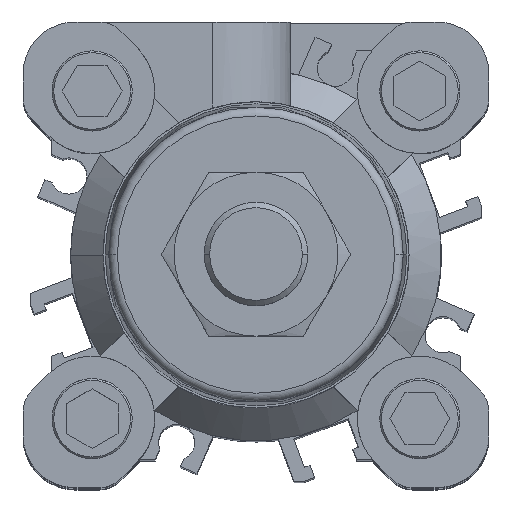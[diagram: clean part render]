
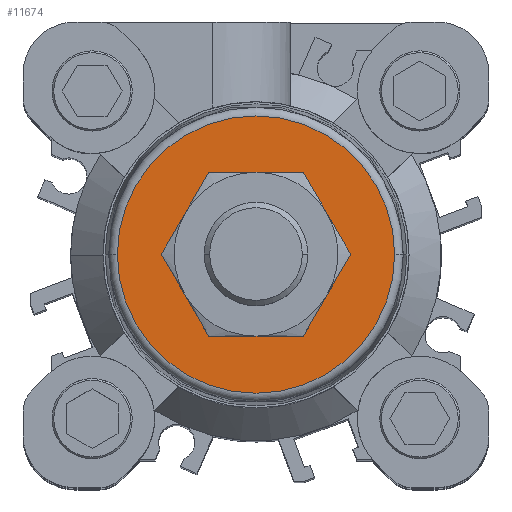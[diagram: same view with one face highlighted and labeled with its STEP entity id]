
A CAD part, top view. The second image highlights one B-rep face of the part: STEP entity #11674.
In plain terms, the highlighted planar face has unit normal (0, 0, 1).
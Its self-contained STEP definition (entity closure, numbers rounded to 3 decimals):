
#39 = CARTESIAN_POINT ( 'NONE',  ( 8., 0., 48.6 ) ) ;
#95 = CARTESIAN_POINT ( 'NONE',  ( 0., 0., 48.6 ) ) ;
#367 = CIRCLE ( 'NONE', #4279, 8. ) ;
#514 = CARTESIAN_POINT ( 'NONE',  ( -16.08, 0., 48.6 ) ) ;
#758 = DIRECTION ( 'NONE',  ( 1., 0., 0. ) ) ;
#994 = VERTEX_POINT ( 'NONE', #1175 ) ;
#1175 = CARTESIAN_POINT ( 'NONE',  ( 16.08, 0., 48.6 ) ) ;
#1439 = DIRECTION ( 'NONE',  ( 0., 0., 1. ) ) ;
#1444 = VERTEX_POINT ( 'NONE', #11749 ) ;
#2641 = DIRECTION ( 'NONE',  ( 0., 0., 1. ) ) ;
#2962 = EDGE_CURVE ( 'NONE', #994, #13232, #9599, .T. ) ;
#2969 = DIRECTION ( 'NONE',  ( 0., 0., 1. ) ) ;
#3604 = CARTESIAN_POINT ( 'NONE',  ( 0., 0., 48.6 ) ) ;
#3805 = EDGE_CURVE ( 'NONE', #13232, #994, #6535, .T. ) ;
#4279 = AXIS2_PLACEMENT_3D ( 'NONE', #12318, #2969, #10285 ) ;
#5655 = FACE_OUTER_BOUND ( 'NONE', #11002, .T. ) ;
#5720 = PLANE ( 'NONE',  #11245 ) ;
#5883 = DIRECTION ( 'NONE',  ( 0., 0., 1. ) ) ;
#6353 = ORIENTED_EDGE ( 'NONE', *, *, #11919, .F. ) ;
#6535 = CIRCLE ( 'NONE', #7396, 16.08 ) ;
#6751 = DIRECTION ( 'NONE',  ( 1., 0., 0. ) ) ;
#6878 = FACE_BOUND ( 'NONE', #9357, .T. ) ;
#6910 = CARTESIAN_POINT ( 'NONE',  ( 0., 0., 48.6 ) ) ;
#7396 = AXIS2_PLACEMENT_3D ( 'NONE', #6910, #5883, #9857 ) ;
#7900 = VERTEX_POINT ( 'NONE', #39 ) ;
#8116 = ORIENTED_EDGE ( 'NONE', *, *, #2962, .T. ) ;
#8427 = DIRECTION ( 'NONE',  ( 0., 0., 1. ) ) ;
#9357 = EDGE_LOOP ( 'NONE', ( #6353, #11156 ) ) ;
#9599 = CIRCLE ( 'NONE', #11340, 16.08 ) ;
#9731 = DIRECTION ( 'NONE',  ( 1., 0., 0. ) ) ;
#9857 = DIRECTION ( 'NONE',  ( 1., 0., 0. ) ) ;
#10285 = DIRECTION ( 'NONE',  ( 1., 0., 0. ) ) ;
#11002 = EDGE_LOOP ( 'NONE', ( #8116, #12450 ) ) ;
#11156 = ORIENTED_EDGE ( 'NONE', *, *, #11936, .F. ) ;
#11245 = AXIS2_PLACEMENT_3D ( 'NONE', #3604, #2641, #6751 ) ;
#11340 = AXIS2_PLACEMENT_3D ( 'NONE', #11819, #1439, #758 ) ;
#11674 = ADVANCED_FACE ( 'NONE', ( #5655, #6878 ), #5720, .T. ) ;
#11701 = AXIS2_PLACEMENT_3D ( 'NONE', #95, #8427, #9731 ) ;
#11749 = CARTESIAN_POINT ( 'NONE',  ( -8., 0., 48.6 ) ) ;
#11819 = CARTESIAN_POINT ( 'NONE',  ( 0., 0., 48.6 ) ) ;
#11919 = EDGE_CURVE ( 'NONE', #7900, #1444, #367, .T. ) ;
#11936 = EDGE_CURVE ( 'NONE', #1444, #7900, #12997, .T. ) ;
#12318 = CARTESIAN_POINT ( 'NONE',  ( 0., 0., 48.6 ) ) ;
#12450 = ORIENTED_EDGE ( 'NONE', *, *, #3805, .T. ) ;
#12997 = CIRCLE ( 'NONE', #11701, 8. ) ;
#13232 = VERTEX_POINT ( 'NONE', #514 ) ;
